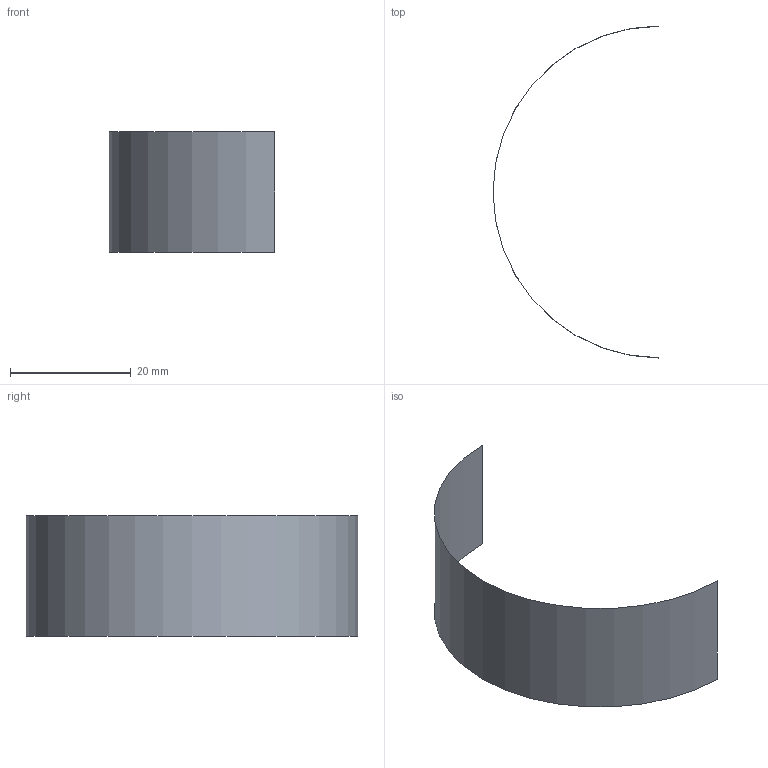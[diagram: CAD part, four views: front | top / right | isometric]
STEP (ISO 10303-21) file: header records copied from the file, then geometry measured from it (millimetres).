
FILE_DESCRIPTION(('CATIA V5 STEP Exchange'),'2;1');
FILE_NAME('C:\_Andres\UNIVERSIDAD\IQS\ASIGNATURAS\DAO\Controles\1920\c1\c1-Saus_Nin_Maria.stp','2020-01-31T12:52:56+00:00',('none'),('none'),'CATIA Version 5 Release 19 SP 3 (IN-10)','CATIA V5 STEP AP203','none');
FILE_SCHEMA(('CONFIG_CONTROL_DESIGN'));
Length unit declared in the file: millimetre
Products named in the file (1): c1-Saus_Nin_Maria
Bounding box: 27.5 x 55 x 20 mm (x, y, z)
Surface area: 1727.9 mm2 (no closed solid volume)
Topology: 0 solids, 1 shells, 1 faces, 10 edges, 18 vertices
Faces by surface type: cylinder 1
Entity records: 149 total; most frequent: CARTESIAN_POINT 30, DIRECTION 12, AXIS2_PLACEMENT_3D 9, CIRCLE 7, COMPOSITE_CURVE 6, COMPOSITE_CURVE_SEGMENT 6, TRIMMED_CURVE 6, ORIENTED_EDGE 4
